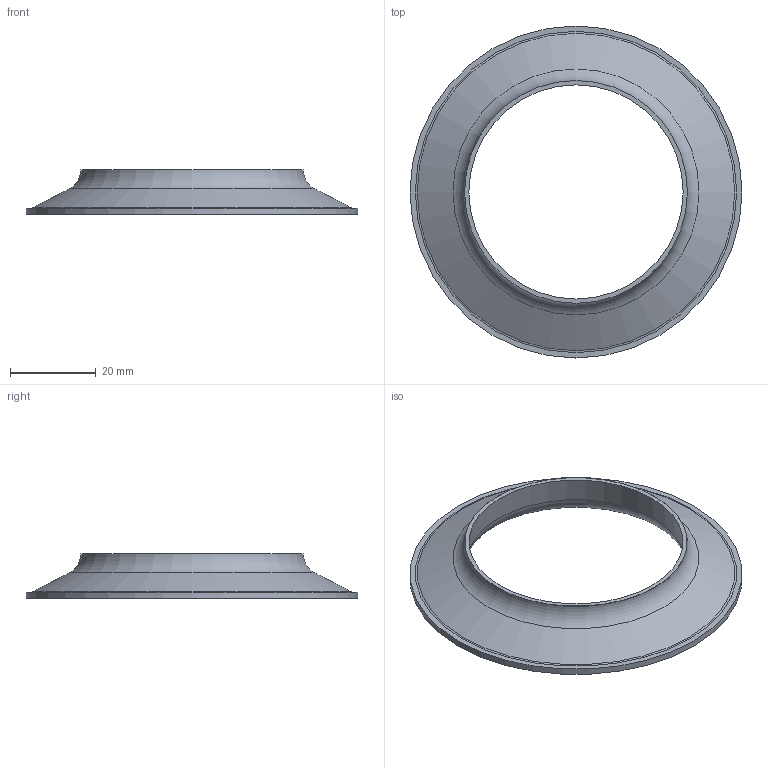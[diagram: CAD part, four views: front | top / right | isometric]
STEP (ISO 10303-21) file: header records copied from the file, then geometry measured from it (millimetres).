
FILE_DESCRIPTION( ('This file contains a STEP AP42 implementation' ,'as created by ZW3D STEP Interface translator.') ,'2;1' );
FILE_NAME( 'KM-50.stp' ,'26 518.134055', (''), ('ZWCAD Software Co.'), 'Version 1.0', 'ZW3D to STEP translator', '' );
FILE_SCHEMA(('AP242_MANAGED_MODEL_BASED_3D_ENGINEERING_MIM_LF { 1 0 10303 442 1 1 4 }'));
Length unit declared in the file: millimetre
Products named in the file (1): 0
Bounding box: 77.5 x 77.5 x 10.5 mm (x, y, z)
Volume: 10518.7 mm3; surface area: 7842.6 mm2
Topology: 1 solids, 1 shells, 10 faces, 17 edges, 10 vertices
Faces by surface type: plane 3, torus 3, cylinder 2, cone 2
Full cylindrical faces by diameter (mm): 52 x1, 77.5 x1
Entity records: 276 total; most frequent: DIRECTION 52, CARTESIAN_POINT 38, ORIENTED_EDGE 34, AXIS2_PLACEMENT_3D 24, EDGE_CURVE 17, CIRCLE 13, EDGE_LOOP 13, VERTEX_POINT 10
